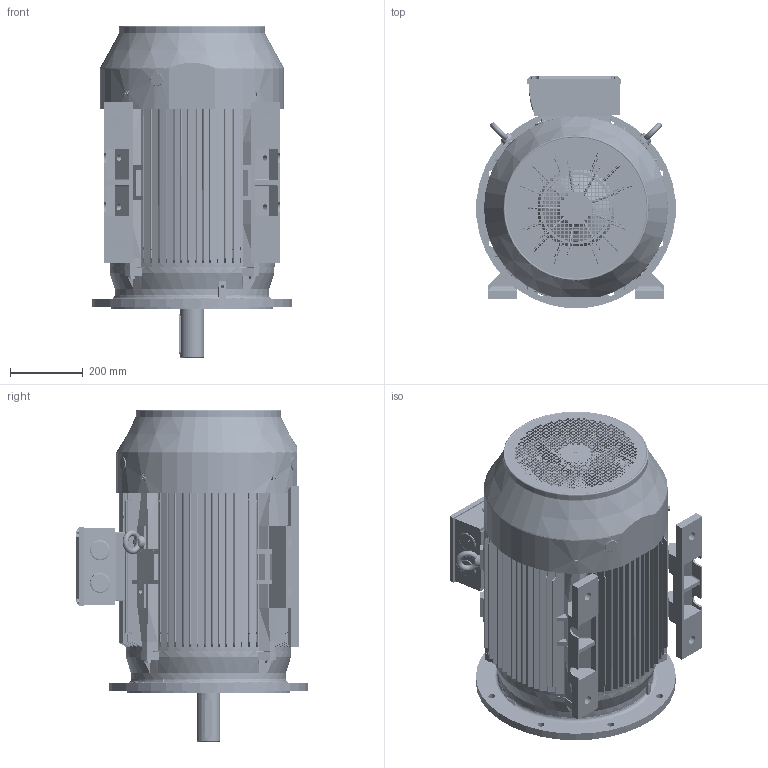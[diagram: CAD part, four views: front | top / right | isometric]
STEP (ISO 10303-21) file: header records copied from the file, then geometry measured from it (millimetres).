
FILE_DESCRIPTION (( 'STEP AP203' ), '1' );
FILE_NAME ('TC 250M B35外形图.STEP', '2013-05-08T09:08:46', ( '微软用户' ), ( '微软中国' ), 'SwSTEP 2.0', 'SolidWorks 2008', '' );
FILE_SCHEMA (( 'CONFIG_CONTROL_DESIGN' ));
Length unit declared in the file: millimetre
Products named in the file (26): TC250B3后端盖（TFC400T后端盖）_默认; TC 250M 底脚_默认; 平键18-110_默认; TC 250 轴承外盖DE_默认; 油封70-95-10_默认; M12-45_默认; 螺塞M50_默认; M8-12_默认; 扣塞_默认; M8-20_默认; TC 250M B35俋倛芞; TC 250M B5机座_默认; TC 250 轴承外盖NDE_默认; TC 250M转子_默认; TC 250M-4 转轴_默认; 6314_默认; IE2 250-4P 风叶_默认; TC 250 风罩_默认; TC 250-280S接线盒座_默认; TC 250-280S接线盒盖_默认; M10-80_默认; 10_默认; 12_默认; 铜油嘴_默认; 吊环M16_默认; TC 250 B5法兰_默认
Assembly tree (48 placements, depth 3):
  TC 250M B35俋倛芞
    12_默认  x4
    M12-45_默认  x4
    TC 250M 底脚_默认  x2
    TC 250 轴承外盖DE_默认
    M8-12_默认  x4
    M8-20_默认  x4
    吊环M16_默认  x2
    TC 250 B5法兰_默认
    TC250B3后端盖（TFC400T后端盖）_默认
    铜油嘴_默认
    IE2 250-4P 风叶_默认
    油封70-95-10_默认
    M10-80_默认  x4
    TC 250M转子_默认
      6314_默认  x2
      平键18-110_默认
      TC 250M-4 转轴_默认
    10_默认  x4
    扣塞_默认  x2
    TC 250-280S接线盒座_默认
    螺塞M50_默认  x2
    TC 250 风罩_默认
    TC 250 轴承外盖NDE_默认
    TC 250-280S接线盒盖_默认
    TC 250M B5机座_默认
Bounding box: 547.91 x 637.95 x 913.5 mm (x, y, z)
Volume: 28728740.8 mm3; surface area: 6222363.8 mm2
Topology: 48 solids, 49 shells, 9467 faces, 27402 edges, 18045 vertices
Faces by surface type: plane 4585, cylinder 3879, cone 358, bspline 316, torus 267, sphere 62
Entity records: 317264 total; most frequent: CARTESIAN_POINT 76244, ORIENTED_EDGE 50876, DIRECTION 48802, EDGE_CURVE 25438, VERTEX_POINT 16795, AXIS2_PLACEMENT_3D 16792, LINE 15218, VECTOR 15218
